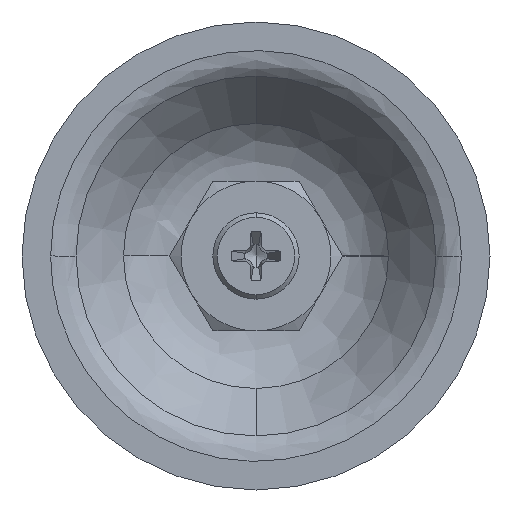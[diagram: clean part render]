
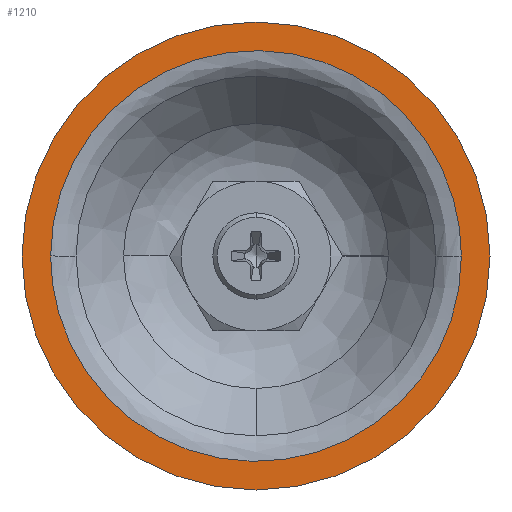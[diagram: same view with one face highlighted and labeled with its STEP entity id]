
A CAD part, front view. The second image highlights one B-rep face of the part: STEP entity #1210.
In plain terms, the highlighted planar face has unit normal (0, -1, 0).
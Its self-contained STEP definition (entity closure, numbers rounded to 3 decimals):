
#948 = ORIENTED_EDGE ( 'NONE', *, *, #4330, .T. ) ;
#985 = EDGE_CURVE ( 'NONE', #4300, #4315, #3127, .T. ) ;
#1010 = ORIENTED_EDGE ( 'NONE', *, *, #985, .T. ) ;
#1047 = EDGE_LOOP ( 'NONE', ( #1010, #948 ) ) ;
#1062 = EDGE_CURVE ( 'NONE', #1116, #1125, #3790, .T. ) ;
#1082 = ORIENTED_EDGE ( 'NONE', *, *, #1062, .T. ) ;
#1116 = VERTEX_POINT ( 'NONE', #1380 ) ;
#1125 = VERTEX_POINT ( 'NONE', #1521 ) ;
#1140 = EDGE_CURVE ( 'NONE', #1125, #1116, #1650, .T. ) ;
#1163 = ORIENTED_EDGE ( 'NONE', *, *, #1140, .T. ) ;
#1195 = EDGE_LOOP ( 'NONE', ( #1163, #1082 ) ) ;
#1210 = ADVANCED_FACE ( 'NONE', ( #2412, #2413 ), #2414, .F. ) ;
#1380 = CARTESIAN_POINT ( 'NONE',  ( -32.911, 0., 0. ) ) ;
#1521 = CARTESIAN_POINT ( 'NONE',  ( 32.911, 0., 0. ) ) ;
#1650 = B_SPLINE_CURVE_WITH_KNOTS ( 'NONE', 3,
 ( #1651, #1652, #1653, #1654, #1655, #1656, #1658, #1659, #1660, #1661, #1662, #1663, #1664, #1665, #1666, #1667, #1668, #1669, #1670, #1671, #1672, #1673, #1677, #1678, #1679, #1680, #1681, #1682, #1683, #1684, #1685, #1686, #1687, #1688 ),
 .UNSPECIFIED., .F., .F.,
 ( 4, 2, 2, 2, 2, 2, 2, 2, 2, 2, 2, 2, 2, 2, 2, 2, 4 ),
 ( 0., 0.063, 0.125, 0.188, 0.25, 0.313, 0.375, 0.438, 0.5, 0.563, 0.625, 0.687, 0.75, 0.813, 0.875, 0.938, 1. ),
 .UNSPECIFIED. ) ;
#1651 = CARTESIAN_POINT ( 'NONE',  ( 32.911, 0., 0. ) ) ;
#1652 = CARTESIAN_POINT ( 'NONE',  ( 32.911, 0., -2.156 ) ) ;
#1653 = CARTESIAN_POINT ( 'NONE',  ( 32.699, 0., -4.307 ) ) ;
#1654 = CARTESIAN_POINT ( 'NONE',  ( 31.858, 0., -8.534 ) ) ;
#1655 = CARTESIAN_POINT ( 'NONE',  ( 31.23, 0., -10.603 ) ) ;
#1656 = CARTESIAN_POINT ( 'NONE',  ( 29.581, 0., -14.585 ) ) ;
#1658 = CARTESIAN_POINT ( 'NONE',  ( 28.562, 0., -16.492 ) ) ;
#1659 = CARTESIAN_POINT ( 'NONE',  ( 26.167, 0., -20.076 ) ) ;
#1660 = CARTESIAN_POINT ( 'NONE',  ( 24.795, 0., -21.748 ) ) ;
#1661 = CARTESIAN_POINT ( 'NONE',  ( 21.748, 0., -24.795 ) ) ;
#1662 = CARTESIAN_POINT ( 'NONE',  ( 20.076, 0., -26.167 ) ) ;
#1663 = CARTESIAN_POINT ( 'NONE',  ( 16.492, 0., -28.562 ) ) ;
#1664 = CARTESIAN_POINT ( 'NONE',  ( 14.585, 0., -29.581 ) ) ;
#1665 = CARTESIAN_POINT ( 'NONE',  ( 10.603, 0., -31.23 ) ) ;
#1666 = CARTESIAN_POINT ( 'NONE',  ( 8.534, 0., -31.858 ) ) ;
#1667 = CARTESIAN_POINT ( 'NONE',  ( 4.307, 0., -32.699 ) ) ;
#1668 = CARTESIAN_POINT ( 'NONE',  ( 2.155, 0., -32.911 ) ) ;
#1669 = CARTESIAN_POINT ( 'NONE',  ( -2.155, 0., -32.911 ) ) ;
#1670 = CARTESIAN_POINT ( 'NONE',  ( -4.307, 0., -32.699 ) ) ;
#1671 = CARTESIAN_POINT ( 'NONE',  ( -8.534, 0., -31.858 ) ) ;
#1672 = CARTESIAN_POINT ( 'NONE',  ( -10.603, 0., -31.23 ) ) ;
#1673 = CARTESIAN_POINT ( 'NONE',  ( -14.585, 0., -29.581 ) ) ;
#1677 = CARTESIAN_POINT ( 'NONE',  ( -16.492, 0., -28.562 ) ) ;
#1678 = CARTESIAN_POINT ( 'NONE',  ( -20.076, 0., -26.167 ) ) ;
#1679 = CARTESIAN_POINT ( 'NONE',  ( -21.748, 0., -24.795 ) ) ;
#1680 = CARTESIAN_POINT ( 'NONE',  ( -24.795, 0., -21.748 ) ) ;
#1681 = CARTESIAN_POINT ( 'NONE',  ( -26.167, 0., -20.076 ) ) ;
#1682 = CARTESIAN_POINT ( 'NONE',  ( -28.562, 0., -16.492 ) ) ;
#1683 = CARTESIAN_POINT ( 'NONE',  ( -29.581, 0., -14.585 ) ) ;
#1684 = CARTESIAN_POINT ( 'NONE',  ( -31.23, 0., -10.603 ) ) ;
#1685 = CARTESIAN_POINT ( 'NONE',  ( -31.858, 0., -8.534 ) ) ;
#1686 = CARTESIAN_POINT ( 'NONE',  ( -32.699, 0., -4.307 ) ) ;
#1687 = CARTESIAN_POINT ( 'NONE',  ( -32.911, 0., -2.156 ) ) ;
#1688 = CARTESIAN_POINT ( 'NONE',  ( -32.911, 0., 0. ) ) ;
#1741 = CARTESIAN_POINT ( 'NONE',  ( 0., 0., 37.5 ) ) ;
#1876 = CARTESIAN_POINT ( 'NONE',  ( 0., 0., -37.5 ) ) ;
#2029 = CIRCLE ( 'NONE', #2030, 37.5 ) ;
#2030 = AXIS2_PLACEMENT_3D ( 'NONE', #2031, #2032, #2033 ) ;
#2031 = CARTESIAN_POINT ( 'NONE',  ( 0., 0., 0. ) ) ;
#2032 = DIRECTION ( 'NONE',  ( 0., -1., 0. ) ) ;
#2033 = DIRECTION ( 'NONE',  ( 0., 0., 1. ) ) ;
#2412 = FACE_BOUND ( 'NONE', #1195, .T. ) ;
#2413 = FACE_OUTER_BOUND ( 'NONE', #1047, .T. ) ;
#2414 = PLANE ( 'NONE',  #2415 ) ;
#2415 = AXIS2_PLACEMENT_3D ( 'NONE', #2416, #2417, #2418 ) ;
#2416 = CARTESIAN_POINT ( 'NONE',  ( -39., 0., 39.027 ) ) ;
#2417 = DIRECTION ( 'NONE',  ( 0., 1., 0. ) ) ;
#2418 = DIRECTION ( 'NONE',  ( 1., 0., 0. ) ) ;
#3127 = CIRCLE ( 'NONE', #3128, 37.5 ) ;
#3128 = AXIS2_PLACEMENT_3D ( 'NONE', #3130, #3131, #3132 ) ;
#3130 = CARTESIAN_POINT ( 'NONE',  ( 0., 0., 0. ) ) ;
#3131 = DIRECTION ( 'NONE',  ( 0., -1., 0. ) ) ;
#3132 = DIRECTION ( 'NONE',  ( 0., 0., 1. ) ) ;
#3790 = B_SPLINE_CURVE_WITH_KNOTS ( 'NONE', 3,
 ( #3791, #3792, #3793, #3794, #3795, #3796, #3797, #3798, #3799, #3800, #3804, #3805, #3806, #3807, #3808, #3809, #3810, #3811, #3812, #3813, #3814, #3815, #3816, #3817, #3818, #3819, #3821, #3822, #3823, #3824, #3825, #3826, #3827, #3828 ),
 .UNSPECIFIED., .F., .F.,
 ( 4, 2, 2, 2, 2, 2, 2, 2, 2, 2, 2, 2, 2, 2, 2, 2, 4 ),
 ( 0., 0.062, 0.125, 0.187, 0.25, 0.312, 0.375, 0.437, 0.5, 0.562, 0.625, 0.687, 0.75, 0.812, 0.875, 0.938, 1. ),
 .UNSPECIFIED. ) ;
#3791 = CARTESIAN_POINT ( 'NONE',  ( -32.911, 0., 0. ) ) ;
#3792 = CARTESIAN_POINT ( 'NONE',  ( -32.911, 0., 2.156 ) ) ;
#3793 = CARTESIAN_POINT ( 'NONE',  ( -32.699, 0., 4.307 ) ) ;
#3794 = CARTESIAN_POINT ( 'NONE',  ( -31.858, 0., 8.534 ) ) ;
#3795 = CARTESIAN_POINT ( 'NONE',  ( -31.23, 0., 10.603 ) ) ;
#3796 = CARTESIAN_POINT ( 'NONE',  ( -29.581, 0., 14.585 ) ) ;
#3797 = CARTESIAN_POINT ( 'NONE',  ( -28.562, 0., 16.492 ) ) ;
#3798 = CARTESIAN_POINT ( 'NONE',  ( -26.167, 0., 20.076 ) ) ;
#3799 = CARTESIAN_POINT ( 'NONE',  ( -24.795, 0., 21.748 ) ) ;
#3800 = CARTESIAN_POINT ( 'NONE',  ( -21.748, 0., 24.795 ) ) ;
#3804 = CARTESIAN_POINT ( 'NONE',  ( -20.076, 0., 26.167 ) ) ;
#3805 = CARTESIAN_POINT ( 'NONE',  ( -16.492, 0., 28.562 ) ) ;
#3806 = CARTESIAN_POINT ( 'NONE',  ( -14.585, 0., 29.581 ) ) ;
#3807 = CARTESIAN_POINT ( 'NONE',  ( -10.603, 0., 31.23 ) ) ;
#3808 = CARTESIAN_POINT ( 'NONE',  ( -8.534, 0., 31.858 ) ) ;
#3809 = CARTESIAN_POINT ( 'NONE',  ( -4.307, 0., 32.699 ) ) ;
#3810 = CARTESIAN_POINT ( 'NONE',  ( -2.155, 0., 32.911 ) ) ;
#3811 = CARTESIAN_POINT ( 'NONE',  ( 2.155, 0., 32.911 ) ) ;
#3812 = CARTESIAN_POINT ( 'NONE',  ( 4.307, 0., 32.699 ) ) ;
#3813 = CARTESIAN_POINT ( 'NONE',  ( 8.534, 0., 31.858 ) ) ;
#3814 = CARTESIAN_POINT ( 'NONE',  ( 10.603, 0., 31.23 ) ) ;
#3815 = CARTESIAN_POINT ( 'NONE',  ( 14.585, 0., 29.581 ) ) ;
#3816 = CARTESIAN_POINT ( 'NONE',  ( 16.492, 0., 28.562 ) ) ;
#3817 = CARTESIAN_POINT ( 'NONE',  ( 20.076, 0., 26.167 ) ) ;
#3818 = CARTESIAN_POINT ( 'NONE',  ( 21.748, 0., 24.795 ) ) ;
#3819 = CARTESIAN_POINT ( 'NONE',  ( 24.795, 0., 21.748 ) ) ;
#3821 = CARTESIAN_POINT ( 'NONE',  ( 26.167, 0., 20.076 ) ) ;
#3822 = CARTESIAN_POINT ( 'NONE',  ( 28.562, 0., 16.492 ) ) ;
#3823 = CARTESIAN_POINT ( 'NONE',  ( 29.581, 0., 14.585 ) ) ;
#3824 = CARTESIAN_POINT ( 'NONE',  ( 31.23, 0., 10.603 ) ) ;
#3825 = CARTESIAN_POINT ( 'NONE',  ( 31.858, 0., 8.534 ) ) ;
#3826 = CARTESIAN_POINT ( 'NONE',  ( 32.699, 0., 4.307 ) ) ;
#3827 = CARTESIAN_POINT ( 'NONE',  ( 32.911, 0., 2.156 ) ) ;
#3828 = CARTESIAN_POINT ( 'NONE',  ( 32.911, 0., 0. ) ) ;
#4300 = VERTEX_POINT ( 'NONE', #1741 ) ;
#4315 = VERTEX_POINT ( 'NONE', #1876 ) ;
#4330 = EDGE_CURVE ( 'NONE', #4315, #4300, #2029, .T. ) ;
